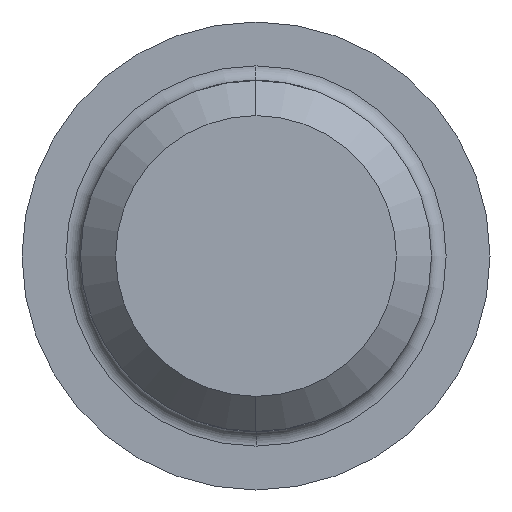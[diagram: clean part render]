
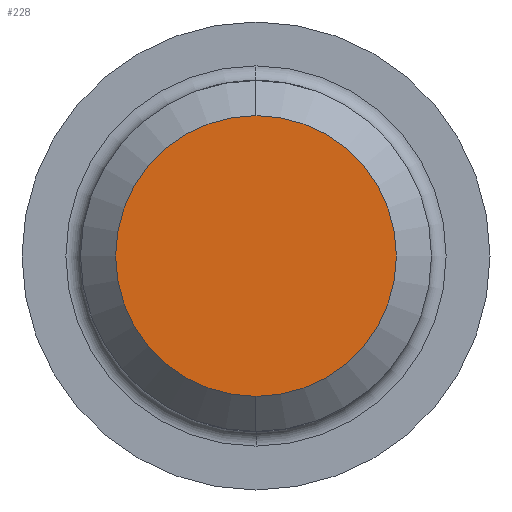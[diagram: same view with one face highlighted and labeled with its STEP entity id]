
A CAD part, left-side view. The second image highlights one B-rep face of the part: STEP entity #228.
In plain terms, the highlighted planar face has unit normal (-1, 0, 0).
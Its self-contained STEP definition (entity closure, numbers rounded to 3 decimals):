
#12 = EDGE_CURVE ( 'NONE', #16, #123, #273, .T. ) ;
#16 = VERTEX_POINT ( 'NONE', #242 ) ;
#74 = CARTESIAN_POINT ( 'NONE',  ( -45., 0., 0. ) ) ;
#88 = DIRECTION ( 'NONE',  ( -1., 0., 0. ) ) ;
#123 = VERTEX_POINT ( 'NONE', #366 ) ;
#170 = ORIENTED_EDGE ( 'NONE', *, *, #12, .T. ) ;
#171 = EDGE_CURVE ( 'NONE', #123, #16, #479, .T. ) ;
#172 = ORIENTED_EDGE ( 'NONE', *, *, #171, .T. ) ;
#226 = EDGE_LOOP ( 'NONE', ( #172, #170 ) ) ;
#228 = ADVANCED_FACE ( 'NONE', ( #428 ), #432, .F. ) ;
#242 = CARTESIAN_POINT ( 'NONE',  ( -45., 0., 4.8 ) ) ;
#243 = DIRECTION ( 'NONE',  ( 0., 0., 1. ) ) ;
#273 = CIRCLE ( 'NONE', #280, 4.8 ) ;
#280 = AXIS2_PLACEMENT_3D ( 'NONE', #74, #88, #243 ) ;
#335 = DIRECTION ( 'NONE',  ( 1., 0., 0. ) ) ;
#336 = CARTESIAN_POINT ( 'NONE',  ( -45., 4.8, 0. ) ) ;
#366 = CARTESIAN_POINT ( 'NONE',  ( -45., 0., -4.8 ) ) ;
#426 = DIRECTION ( 'NONE',  ( 0., 0., -1. ) ) ;
#428 = FACE_OUTER_BOUND ( 'NONE', #226, .T. ) ;
#430 = AXIS2_PLACEMENT_3D ( 'NONE', #336, #335, #426 ) ;
#432 = PLANE ( 'NONE',  #430 ) ;
#475 = DIRECTION ( 'NONE',  ( 0., 0., 1. ) ) ;
#476 = DIRECTION ( 'NONE',  ( -1., 0., 0. ) ) ;
#477 = CARTESIAN_POINT ( 'NONE',  ( -45., 0., 0. ) ) ;
#479 = CIRCLE ( 'NONE', #485, 4.8 ) ;
#485 = AXIS2_PLACEMENT_3D ( 'NONE', #477, #476, #475 ) ;
